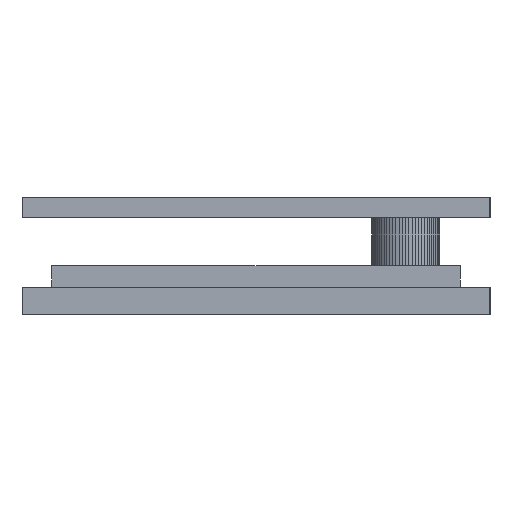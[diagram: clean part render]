
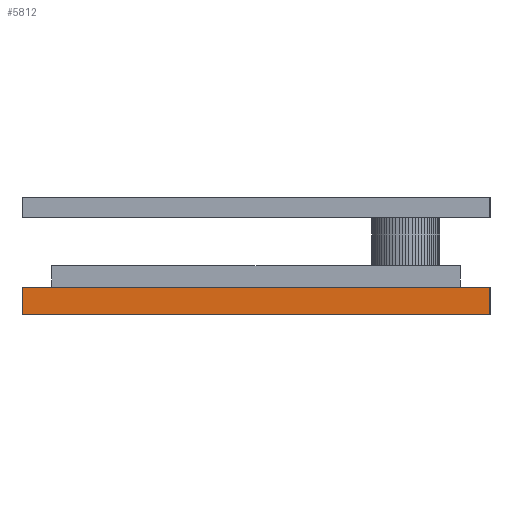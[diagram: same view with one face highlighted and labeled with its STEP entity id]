
A CAD part, left-side view. The second image highlights one B-rep face of the part: STEP entity #5812.
In plain terms, the highlighted planar face has unit normal (-1, 0, 0).
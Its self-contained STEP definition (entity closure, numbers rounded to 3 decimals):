
#5812 = ADVANCED_FACE('',(#5813),#5827,.F.);
#5813 = FACE_BOUND('',#5814,.F.);
#5814 = EDGE_LOOP('',(#5815,#5850,#5878,#5906));
#5815 = ORIENTED_EDGE('',*,*,#5816,.T.);
#5816 = EDGE_CURVE('',#5817,#5819,#5821,.T.);
#5817 = VERTEX_POINT('',#5818);
#5818 = CARTESIAN_POINT('',(-2.2,32.2,-3.6));
#5819 = VERTEX_POINT('',#5820);
#5820 = CARTESIAN_POINT('',(-2.2,32.2,-1.6));
#5821 = SURFACE_CURVE('',#5822,(#5826,#5838),.PCURVE_S1.);
#5822 = LINE('',#5823,#5824);
#5823 = CARTESIAN_POINT('',(-2.2,32.2,-3.6));
#5824 = VECTOR('',#5825,1.);
#5825 = DIRECTION('',(0.,0.,1.));
#5826 = PCURVE('',#5827,#5832);
#5827 = PLANE('',#5828);
#5828 = AXIS2_PLACEMENT_3D('',#5829,#5830,#5831);
#5829 = CARTESIAN_POINT('',(-2.2,32.2,-3.6));
#5830 = DIRECTION('',(1.,0.,-0.));
#5831 = DIRECTION('',(0.,-1.,0.));
#5832 = DEFINITIONAL_REPRESENTATION('',(#5833),#5837);
#5833 = LINE('',#5834,#5835);
#5834 = CARTESIAN_POINT('',(0.,0.));
#5835 = VECTOR('',#5836,1.);
#5836 = DIRECTION('',(0.,-1.));
#5837 = ( GEOMETRIC_REPRESENTATION_CONTEXT(2) 
PARAMETRIC_REPRESENTATION_CONTEXT() REPRESENTATION_CONTEXT('2D SPACE',''
  ) );
#5838 = PCURVE('',#5839,#5844);
#5839 = PLANE('',#5840);
#5840 = AXIS2_PLACEMENT_3D('',#5841,#5842,#5843);
#5841 = CARTESIAN_POINT('',(42.2,32.2,-3.6));
#5842 = DIRECTION('',(0.,-1.,0.));
#5843 = DIRECTION('',(-1.,0.,0.));
#5844 = DEFINITIONAL_REPRESENTATION('',(#5845),#5849);
#5845 = LINE('',#5846,#5847);
#5846 = CARTESIAN_POINT('',(44.4,0.));
#5847 = VECTOR('',#5848,1.);
#5848 = DIRECTION('',(0.,-1.));
#5849 = ( GEOMETRIC_REPRESENTATION_CONTEXT(2) 
PARAMETRIC_REPRESENTATION_CONTEXT() REPRESENTATION_CONTEXT('2D SPACE',''
  ) );
#5850 = ORIENTED_EDGE('',*,*,#5851,.T.);
#5851 = EDGE_CURVE('',#5819,#5852,#5854,.T.);
#5852 = VERTEX_POINT('',#5853);
#5853 = CARTESIAN_POINT('',(-2.2,-2.2,-1.6));
#5854 = SURFACE_CURVE('',#5855,(#5859,#5866),.PCURVE_S1.);
#5855 = LINE('',#5856,#5857);
#5856 = CARTESIAN_POINT('',(-2.2,32.2,-1.6));
#5857 = VECTOR('',#5858,1.);
#5858 = DIRECTION('',(0.,-1.,0.));
#5859 = PCURVE('',#5827,#5860);
#5860 = DEFINITIONAL_REPRESENTATION('',(#5861),#5865);
#5861 = LINE('',#5862,#5863);
#5862 = CARTESIAN_POINT('',(0.,-2.));
#5863 = VECTOR('',#5864,1.);
#5864 = DIRECTION('',(1.,0.));
#5865 = ( GEOMETRIC_REPRESENTATION_CONTEXT(2) 
PARAMETRIC_REPRESENTATION_CONTEXT() REPRESENTATION_CONTEXT('2D SPACE',''
  ) );
#5866 = PCURVE('',#5867,#5872);
#5867 = PLANE('',#5868);
#5868 = AXIS2_PLACEMENT_3D('',#5869,#5870,#5871);
#5869 = CARTESIAN_POINT('',(20.,15.,-1.6));
#5870 = DIRECTION('',(0.,0.,1.));
#5871 = DIRECTION('',(1.,0.,-0.));
#5872 = DEFINITIONAL_REPRESENTATION('',(#5873),#5877);
#5873 = LINE('',#5874,#5875);
#5874 = CARTESIAN_POINT('',(-22.2,17.2));
#5875 = VECTOR('',#5876,1.);
#5876 = DIRECTION('',(0.,-1.));
#5877 = ( GEOMETRIC_REPRESENTATION_CONTEXT(2) 
PARAMETRIC_REPRESENTATION_CONTEXT() REPRESENTATION_CONTEXT('2D SPACE',''
  ) );
#5878 = ORIENTED_EDGE('',*,*,#5879,.F.);
#5879 = EDGE_CURVE('',#5880,#5852,#5882,.T.);
#5880 = VERTEX_POINT('',#5881);
#5881 = CARTESIAN_POINT('',(-2.2,-2.2,-3.6));
#5882 = SURFACE_CURVE('',#5883,(#5887,#5894),.PCURVE_S1.);
#5883 = LINE('',#5884,#5885);
#5884 = CARTESIAN_POINT('',(-2.2,-2.2,-3.6));
#5885 = VECTOR('',#5886,1.);
#5886 = DIRECTION('',(0.,0.,1.));
#5887 = PCURVE('',#5827,#5888);
#5888 = DEFINITIONAL_REPRESENTATION('',(#5889),#5893);
#5889 = LINE('',#5890,#5891);
#5890 = CARTESIAN_POINT('',(34.4,0.));
#5891 = VECTOR('',#5892,1.);
#5892 = DIRECTION('',(0.,-1.));
#5893 = ( GEOMETRIC_REPRESENTATION_CONTEXT(2) 
PARAMETRIC_REPRESENTATION_CONTEXT() REPRESENTATION_CONTEXT('2D SPACE',''
  ) );
#5894 = PCURVE('',#5895,#5900);
#5895 = PLANE('',#5896);
#5896 = AXIS2_PLACEMENT_3D('',#5897,#5898,#5899);
#5897 = CARTESIAN_POINT('',(-2.2,-2.2,-3.6));
#5898 = DIRECTION('',(0.,1.,0.));
#5899 = DIRECTION('',(1.,0.,0.));
#5900 = DEFINITIONAL_REPRESENTATION('',(#5901),#5905);
#5901 = LINE('',#5902,#5903);
#5902 = CARTESIAN_POINT('',(0.,0.));
#5903 = VECTOR('',#5904,1.);
#5904 = DIRECTION('',(0.,-1.));
#5905 = ( GEOMETRIC_REPRESENTATION_CONTEXT(2) 
PARAMETRIC_REPRESENTATION_CONTEXT() REPRESENTATION_CONTEXT('2D SPACE',''
  ) );
#5906 = ORIENTED_EDGE('',*,*,#5907,.F.);
#5907 = EDGE_CURVE('',#5817,#5880,#5908,.T.);
#5908 = SURFACE_CURVE('',#5909,(#5913,#5920),.PCURVE_S1.);
#5909 = LINE('',#5910,#5911);
#5910 = CARTESIAN_POINT('',(-2.2,32.2,-3.6));
#5911 = VECTOR('',#5912,1.);
#5912 = DIRECTION('',(0.,-1.,0.));
#5913 = PCURVE('',#5827,#5914);
#5914 = DEFINITIONAL_REPRESENTATION('',(#5915),#5919);
#5915 = LINE('',#5916,#5917);
#5916 = CARTESIAN_POINT('',(0.,0.));
#5917 = VECTOR('',#5918,1.);
#5918 = DIRECTION('',(1.,0.));
#5919 = ( GEOMETRIC_REPRESENTATION_CONTEXT(2) 
PARAMETRIC_REPRESENTATION_CONTEXT() REPRESENTATION_CONTEXT('2D SPACE',''
  ) );
#5920 = PCURVE('',#5921,#5926);
#5921 = PLANE('',#5922);
#5922 = AXIS2_PLACEMENT_3D('',#5923,#5924,#5925);
#5923 = CARTESIAN_POINT('',(20.,15.,-3.6));
#5924 = DIRECTION('',(0.,0.,1.));
#5925 = DIRECTION('',(1.,0.,-0.));
#5926 = DEFINITIONAL_REPRESENTATION('',(#5927),#5931);
#5927 = LINE('',#5928,#5929);
#5928 = CARTESIAN_POINT('',(-22.2,17.2));
#5929 = VECTOR('',#5930,1.);
#5930 = DIRECTION('',(0.,-1.));
#5931 = ( GEOMETRIC_REPRESENTATION_CONTEXT(2) 
PARAMETRIC_REPRESENTATION_CONTEXT() REPRESENTATION_CONTEXT('2D SPACE',''
  ) );
